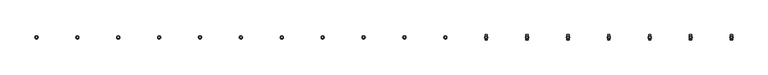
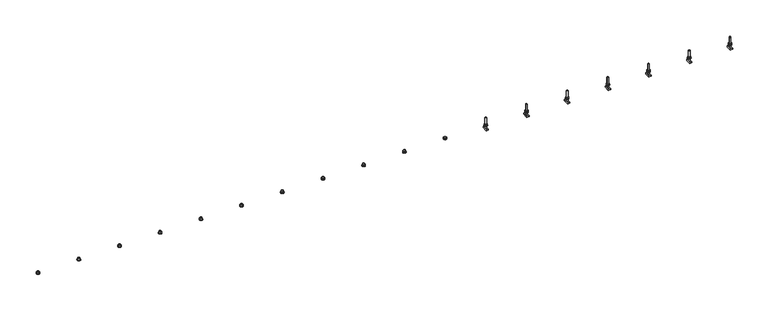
"""IFC4 building model written with IfcOpenShell, lengths in millimetres: fastener geometry, JTA-W JORDAHL® AnchorChannels : JTA-W L=6000 mm."""

from ifc_helpers import new_model, si_unit, point, frame, frame_2d, origin, place, context, project, spatial, polyline, circle_curve, trimmed, segment, composite_curve, outline, extrude, source, transform, mapped, element, save
from ifc_brep_helpers import plane_surface, cylinder_surface, advanced_brep


def fastener_9fe78c77(model_context):
    return source(origin(), model_context, "Body", "SolidModel", [
        extrude(outline(polyline([(5617.1052632, -10.3923048), (5608.1052632, -5.1961524), (5608.1052632, 5.1961524), (5617.1052632, 10.3923048), (5626.1052632, 5.1961524), (5626.1052632, -5.1961524), (5617.1052632, -10.3923048)]), holes=[composite_curve([segment(trimmed(circle_curve(frame_2d((5617.1052632, 0.0)), 6.0), [point((5611.1052632, 0.0))], [point((5623.1052632, 0.0))], True, "CARTESIAN"), True, "CONTINUOUS"), segment(trimmed(circle_curve(frame_2d((5617.1052632, 0.0)), 6.0), [point((5623.1052632, 0.0))], [point((5611.1052632, 0.0))], True, "CARTESIAN"), True, "CONTINUOUS")], self_intersect=False)]), frame((0.0, 0.0, 17.5), z_axis=(0.0, 0.0, 1.0), x_axis=(1.0, 0.0, 0.0)), (0.0, 0.0, 1.0), 10.8),
        extrude(outline(composite_curve([segment(trimmed(circle_curve(frame_2d((5617.1052632, 0.0)), 12.0), [point((5605.1052632, 0.0))], [point((5629.1052632, 0.0))], False, "CARTESIAN"), True, "CONTINUOUS"), segment(trimmed(circle_curve(frame_2d((5617.1052632, 0.0)), 12.0), [point((5629.1052632, 0.0))], [point((5605.1052632, 0.0))], False, "CARTESIAN"), True, "CONTINUOUS")], self_intersect=False), holes=[composite_curve([segment(trimmed(circle_curve(frame_2d((5617.1052632, 0.0)), 6.5), [point((5610.6052632, 0.0))], [point((5623.6052632, 0.0))], True, "CARTESIAN"), True, "CONTINUOUS"), segment(trimmed(circle_curve(frame_2d((5617.1052632, 0.0)), 6.5), [point((5623.6052632, 0.0))], [point((5610.6052632, 0.0))], True, "CARTESIAN"), True, "CONTINUOUS")], self_intersect=False)]), frame((0.0, 0.0, 15.0), z_axis=(0.0, 0.0, 1.0), x_axis=(1.0, 0.0, 0.0)), (0.0, 0.0, 1.0), 2.5),
        extrude(outline(polyline([(5309.2105263, -10.3923048), (5300.2105263, -5.1961524), (5300.2105263, 5.1961524), (5309.2105263, 10.3923048), (5318.2105263, 5.1961524), (5318.2105263, -5.1961524), (5309.2105263, -10.3923048)]), holes=[composite_curve([segment(trimmed(circle_curve(frame_2d((5309.2105263, 0.0)), 6.0), [point((5303.2105263, 0.0))], [point((5315.2105263, 0.0))], True, "CARTESIAN"), True, "CONTINUOUS"), segment(trimmed(circle_curve(frame_2d((5309.2105263, 0.0)), 6.0), [point((5315.2105263, 0.0))], [point((5303.2105263, 0.0))], True, "CARTESIAN"), True, "CONTINUOUS")], self_intersect=False)]), frame((0.0, 0.0, 17.5), z_axis=(0.0, 0.0, 1.0), x_axis=(1.0, 0.0, 0.0)), (0.0, 0.0, 1.0), 10.8),
        extrude(outline(composite_curve([segment(trimmed(circle_curve(frame_2d((5309.2105263, 0.0)), 12.0), [point((5297.2105263, 0.0))], [point((5321.2105263, 0.0))], False, "CARTESIAN"), True, "CONTINUOUS"), segment(trimmed(circle_curve(frame_2d((5309.2105263, 0.0)), 12.0), [point((5321.2105263, 0.0))], [point((5297.2105263, 0.0))], False, "CARTESIAN"), True, "CONTINUOUS")], self_intersect=False), holes=[composite_curve([segment(trimmed(circle_curve(frame_2d((5309.2105263, 0.0)), 6.5), [point((5302.7105263, 0.0))], [point((5315.7105263, 0.0))], True, "CARTESIAN"), True, "CONTINUOUS"), segment(trimmed(circle_curve(frame_2d((5309.2105263, 0.0)), 6.5), [point((5315.7105263, 0.0))], [point((5302.7105263, 0.0))], True, "CARTESIAN"), True, "CONTINUOUS")], self_intersect=False)]), frame((0.0, 0.0, 15.0), z_axis=(0.0, 0.0, 1.0), x_axis=(1.0, 0.0, 0.0)), (0.0, 0.0, 1.0), 2.5),
        extrude(outline(polyline([(5001.3157895, -10.3923048), (4992.3157895, -5.1961524), (4992.3157895, 5.1961524), (5001.3157895, 10.3923048), (5010.3157895, 5.1961524), (5010.3157895, -5.1961524), (5001.3157895, -10.3923048)]), holes=[composite_curve([segment(trimmed(circle_curve(frame_2d((5001.3157895, 0.0)), 6.0), [point((4995.3157895, 0.0))], [point((5007.3157895, 0.0))], True, "CARTESIAN"), True, "CONTINUOUS"), segment(trimmed(circle_curve(frame_2d((5001.3157895, 0.0)), 6.0), [point((5007.3157895, 0.0))], [point((4995.3157895, 0.0))], True, "CARTESIAN"), True, "CONTINUOUS")], self_intersect=False)]), frame((0.0, 0.0, 17.5), z_axis=(0.0, 0.0, 1.0), x_axis=(1.0, 0.0, 0.0)), (0.0, 0.0, 1.0), 10.8),
        extrude(outline(composite_curve([segment(trimmed(circle_curve(frame_2d((5001.3157895, 0.0)), 12.0), [point((4989.3157895, 0.0))], [point((5013.3157895, 0.0))], False, "CARTESIAN"), True, "CONTINUOUS"), segment(trimmed(circle_curve(frame_2d((5001.3157895, 0.0)), 12.0), [point((5013.3157895, 0.0))], [point((4989.3157895, 0.0))], False, "CARTESIAN"), True, "CONTINUOUS")], self_intersect=False), holes=[composite_curve([segment(trimmed(circle_curve(frame_2d((5001.3157895, 0.0)), 6.5), [point((4994.8157895, 0.0))], [point((5007.8157895, 0.0))], True, "CARTESIAN"), True, "CONTINUOUS"), segment(trimmed(circle_curve(frame_2d((5001.3157895, 0.0)), 6.5), [point((5007.8157895, 0.0))], [point((4994.8157895, 0.0))], True, "CARTESIAN"), True, "CONTINUOUS")], self_intersect=False)]), frame((0.0, 0.0, 15.0), z_axis=(0.0, 0.0, 1.0), x_axis=(1.0, 0.0, 0.0)), (0.0, 0.0, 1.0), 2.5),
        extrude(outline(polyline([(4693.4210526, -10.3923048), (4684.4210526, -5.1961524), (4684.4210526, 5.1961524), (4693.4210526, 10.3923048), (4702.4210526, 5.1961524), (4702.4210526, -5.1961524), (4693.4210526, -10.3923048)]), holes=[composite_curve([segment(trimmed(circle_curve(frame_2d((4693.4210526, 0.0)), 6.0), [point((4687.4210526, 0.0))], [point((4699.4210526, 0.0))], True, "CARTESIAN"), True, "CONTINUOUS"), segment(trimmed(circle_curve(frame_2d((4693.4210526, 0.0)), 6.0), [point((4699.4210526, 0.0))], [point((4687.4210526, 0.0))], True, "CARTESIAN"), True, "CONTINUOUS")], self_intersect=False)]), frame((0.0, 0.0, 17.5), z_axis=(0.0, 0.0, 1.0), x_axis=(1.0, 0.0, 0.0)), (0.0, 0.0, 1.0), 10.8),
        extrude(outline(composite_curve([segment(trimmed(circle_curve(frame_2d((4693.4210526, 0.0)), 12.0), [point((4681.4210526, 0.0))], [point((4705.4210526, 0.0))], False, "CARTESIAN"), True, "CONTINUOUS"), segment(trimmed(circle_curve(frame_2d((4693.4210526, 0.0)), 12.0), [point((4705.4210526, 0.0))], [point((4681.4210526, 0.0))], False, "CARTESIAN"), True, "CONTINUOUS")], self_intersect=False), holes=[composite_curve([segment(trimmed(circle_curve(frame_2d((4693.4210526, 0.0)), 6.5), [point((4686.9210526, 0.0))], [point((4699.9210526, 0.0))], True, "CARTESIAN"), True, "CONTINUOUS"), segment(trimmed(circle_curve(frame_2d((4693.4210526, 0.0)), 6.5), [point((4699.9210526, 0.0))], [point((4686.9210526, 0.0))], True, "CARTESIAN"), True, "CONTINUOUS")], self_intersect=False)]), frame((0.0, 0.0, 15.0), z_axis=(0.0, 0.0, 1.0), x_axis=(1.0, 0.0, 0.0)), (0.0, 0.0, 1.0), 2.5),
        extrude(outline(polyline([(4385.5263158, -10.3923048), (4376.5263158, -5.1961524), (4376.5263158, 5.1961524), (4385.5263158, 10.3923048), (4394.5263158, 5.1961524), (4394.5263158, -5.1961524), (4385.5263158, -10.3923048)]), holes=[composite_curve([segment(trimmed(circle_curve(frame_2d((4385.5263158, 0.0)), 6.0), [point((4379.5263158, 0.0))], [point((4391.5263158, 0.0))], True, "CARTESIAN"), True, "CONTINUOUS"), segment(trimmed(circle_curve(frame_2d((4385.5263158, 0.0)), 6.0), [point((4391.5263158, 0.0))], [point((4379.5263158, 0.0))], True, "CARTESIAN"), True, "CONTINUOUS")], self_intersect=False)]), frame((0.0, 0.0, 17.5), z_axis=(0.0, 0.0, 1.0), x_axis=(1.0, 0.0, 0.0)), (0.0, 0.0, 1.0), 10.8),
        extrude(outline(composite_curve([segment(trimmed(circle_curve(frame_2d((4385.5263158, 0.0)), 12.0), [point((4373.5263158, 0.0))], [point((4397.5263158, 0.0))], False, "CARTESIAN"), True, "CONTINUOUS"), segment(trimmed(circle_curve(frame_2d((4385.5263158, 0.0)), 12.0), [point((4397.5263158, 0.0))], [point((4373.5263158, 0.0))], False, "CARTESIAN"), True, "CONTINUOUS")], self_intersect=False), holes=[composite_curve([segment(trimmed(circle_curve(frame_2d((4385.5263158, 0.0)), 6.5), [point((4379.0263158, 0.0))], [point((4392.0263158, 0.0))], True, "CARTESIAN"), True, "CONTINUOUS"), segment(trimmed(circle_curve(frame_2d((4385.5263158, 0.0)), 6.5), [point((4392.0263158, 0.0))], [point((4379.0263158, 0.0))], True, "CARTESIAN"), True, "CONTINUOUS")], self_intersect=False)]), frame((0.0, 0.0, 15.0), z_axis=(0.0, 0.0, 1.0), x_axis=(1.0, 0.0, 0.0)), (0.0, 0.0, 1.0), 2.5),
        extrude(outline(polyline([(4077.6315789, -10.3923048), (4068.6315789, -5.1961524), (4068.6315789, 5.1961524), (4077.6315789, 10.3923048), (4086.6315789, 5.1961524), (4086.6315789, -5.1961524), (4077.6315789, -10.3923048)]), holes=[composite_curve([segment(trimmed(circle_curve(frame_2d((4077.6315789, 0.0)), 6.0), [point((4071.6315789, 0.0))], [point((4083.6315789, 0.0))], True, "CARTESIAN"), True, "CONTINUOUS"), segment(trimmed(circle_curve(frame_2d((4077.6315789, 0.0)), 6.0), [point((4083.6315789, 0.0))], [point((4071.6315789, 0.0))], True, "CARTESIAN"), True, "CONTINUOUS")], self_intersect=False)]), frame((0.0, 0.0, 17.5), z_axis=(0.0, 0.0, 1.0), x_axis=(1.0, 0.0, 0.0)), (0.0, 0.0, 1.0), 10.8),
        extrude(outline(composite_curve([segment(trimmed(circle_curve(frame_2d((4077.6315789, 0.0)), 12.0), [point((4065.6315789, 0.0))], [point((4089.6315789, 0.0))], False, "CARTESIAN"), True, "CONTINUOUS"), segment(trimmed(circle_curve(frame_2d((4077.6315789, 0.0)), 12.0), [point((4089.6315789, 0.0))], [point((4065.6315789, 0.0))], False, "CARTESIAN"), True, "CONTINUOUS")], self_intersect=False), holes=[composite_curve([segment(trimmed(circle_curve(frame_2d((4077.6315789, 0.0)), 6.5), [point((4071.1315789, 0.0))], [point((4084.1315789, 0.0))], True, "CARTESIAN"), True, "CONTINUOUS"), segment(trimmed(circle_curve(frame_2d((4077.6315789, 0.0)), 6.5), [point((4084.1315789, 0.0))], [point((4071.1315789, 0.0))], True, "CARTESIAN"), True, "CONTINUOUS")], self_intersect=False)]), frame((0.0, 0.0, 15.0), z_axis=(0.0, 0.0, 1.0), x_axis=(1.0, 0.0, 0.0)), (0.0, 0.0, 1.0), 2.5),
        extrude(outline(polyline([(3769.7368421, -10.3923048), (3760.7368421, -5.1961524), (3760.7368421, 5.1961524), (3769.7368421, 10.3923048), (3778.7368421, 5.1961524), (3778.7368421, -5.1961524), (3769.7368421, -10.3923048)]), holes=[composite_curve([segment(trimmed(circle_curve(frame_2d((3769.7368421, 0.0)), 6.0), [point((3763.7368421, 0.0))], [point((3775.7368421, 0.0))], True, "CARTESIAN"), True, "CONTINUOUS"), segment(trimmed(circle_curve(frame_2d((3769.7368421, 0.0)), 6.0), [point((3775.7368421, 0.0))], [point((3763.7368421, 0.0))], True, "CARTESIAN"), True, "CONTINUOUS")], self_intersect=False)]), frame((0.0, 0.0, 17.5), z_axis=(0.0, 0.0, 1.0), x_axis=(1.0, 0.0, 0.0)), (0.0, 0.0, 1.0), 10.8),
        extrude(outline(composite_curve([segment(trimmed(circle_curve(frame_2d((3769.7368421, 0.0)), 12.0), [point((3757.7368421, 0.0))], [point((3781.7368421, 0.0))], False, "CARTESIAN"), True, "CONTINUOUS"), segment(trimmed(circle_curve(frame_2d((3769.7368421, 0.0)), 12.0), [point((3781.7368421, 0.0))], [point((3757.7368421, 0.0))], False, "CARTESIAN"), True, "CONTINUOUS")], self_intersect=False), holes=[composite_curve([segment(trimmed(circle_curve(frame_2d((3769.7368421, 0.0)), 6.5), [point((3763.2368421, 0.0))], [point((3776.2368421, 0.0))], True, "CARTESIAN"), True, "CONTINUOUS"), segment(trimmed(circle_curve(frame_2d((3769.7368421, 0.0)), 6.5), [point((3776.2368421, 0.0))], [point((3763.2368421, 0.0))], True, "CARTESIAN"), True, "CONTINUOUS")], self_intersect=False)]), frame((0.0, 0.0, 15.0), z_axis=(0.0, 0.0, 1.0), x_axis=(1.0, 0.0, 0.0)), (0.0, 0.0, 1.0), 2.5),
        extrude(outline(polyline([(3461.8421053, -10.3923048), (3452.8421053, -5.1961524), (3452.8421053, 5.1961524), (3461.8421053, 10.3923048), (3470.8421053, 5.1961524), (3470.8421053, -5.1961524), (3461.8421053, -10.3923048)]), holes=[composite_curve([segment(trimmed(circle_curve(frame_2d((3461.8421053, 0.0)), 6.0), [point((3455.8421053, 0.0))], [point((3467.8421053, 0.0))], True, "CARTESIAN"), True, "CONTINUOUS"), segment(trimmed(circle_curve(frame_2d((3461.8421053, 0.0)), 6.0), [point((3467.8421053, 0.0))], [point((3455.8421053, 0.0))], True, "CARTESIAN"), True, "CONTINUOUS")], self_intersect=False)]), frame((0.0, 0.0, 17.5), z_axis=(0.0, 0.0, 1.0), x_axis=(1.0, 0.0, 0.0)), (0.0, 0.0, 1.0), 10.8),
        extrude(outline(composite_curve([segment(trimmed(circle_curve(frame_2d((3461.8421053, 0.0)), 12.0), [point((3449.8421053, 0.0))], [point((3473.8421053, 0.0))], False, "CARTESIAN"), True, "CONTINUOUS"), segment(trimmed(circle_curve(frame_2d((3461.8421053, 0.0)), 12.0), [point((3473.8421053, 0.0))], [point((3449.8421053, 0.0))], False, "CARTESIAN"), True, "CONTINUOUS")], self_intersect=False), holes=[composite_curve([segment(trimmed(circle_curve(frame_2d((3461.8421053, 0.0)), 6.5), [point((3455.3421053, 0.0))], [point((3468.3421053, 0.0))], True, "CARTESIAN"), True, "CONTINUOUS"), segment(trimmed(circle_curve(frame_2d((3461.8421053, 0.0)), 6.5), [point((3468.3421053, 0.0))], [point((3455.3421053, 0.0))], True, "CARTESIAN"), True, "CONTINUOUS")], self_intersect=False)]), frame((0.0, 0.0, 15.0), z_axis=(0.0, 0.0, 1.0), x_axis=(1.0, 0.0, 0.0)), (0.0, 0.0, 1.0), 2.5),
        extrude(outline(polyline([(3153.9473684, -10.3923048), (3144.9473684, -5.1961524), (3144.9473684, 5.1961524), (3153.9473684, 10.3923048), (3162.9473684, 5.1961524), (3162.9473684, -5.1961524), (3153.9473684, -10.3923048)]), holes=[composite_curve([segment(trimmed(circle_curve(frame_2d((3153.9473684, 0.0)), 6.0), [point((3147.9473684, 0.0))], [point((3159.9473684, 0.0))], True, "CARTESIAN"), True, "CONTINUOUS"), segment(trimmed(circle_curve(frame_2d((3153.9473684, 0.0)), 6.0), [point((3159.9473684, 0.0))], [point((3147.9473684, 0.0))], True, "CARTESIAN"), True, "CONTINUOUS")], self_intersect=False)]), frame((0.0, 0.0, 17.5), z_axis=(0.0, 0.0, 1.0), x_axis=(1.0, 0.0, 0.0)), (0.0, 0.0, 1.0), 10.8),
        extrude(outline(composite_curve([segment(trimmed(circle_curve(frame_2d((3153.9473684, 0.0)), 12.0), [point((3141.9473684, 0.0))], [point((3165.9473684, 0.0))], False, "CARTESIAN"), True, "CONTINUOUS"), segment(trimmed(circle_curve(frame_2d((3153.9473684, 0.0)), 12.0), [point((3165.9473684, 0.0))], [point((3141.9473684, 0.0))], False, "CARTESIAN"), True, "CONTINUOUS")], self_intersect=False), holes=[composite_curve([segment(trimmed(circle_curve(frame_2d((3153.9473684, 0.0)), 6.5), [point((3147.4473684, 0.0))], [point((3160.4473684, 0.0))], True, "CARTESIAN"), True, "CONTINUOUS"), segment(trimmed(circle_curve(frame_2d((3153.9473684, 0.0)), 6.5), [point((3160.4473684, 0.0))], [point((3147.4473684, 0.0))], True, "CARTESIAN"), True, "CONTINUOUS")], self_intersect=False)]), frame((0.0, 0.0, 15.0), z_axis=(0.0, 0.0, 1.0), x_axis=(1.0, 0.0, 0.0)), (0.0, 0.0, 1.0), 2.5),
        extrude(outline(polyline([(2846.0526316, -10.3923048), (2837.0526316, -5.1961524), (2837.0526316, 5.1961524), (2846.0526316, 10.3923048), (2855.0526316, 5.1961524), (2855.0526316, -5.1961524), (2846.0526316, -10.3923048)]), holes=[composite_curve([segment(trimmed(circle_curve(frame_2d((2846.0526316, 0.0)), 6.0), [point((2840.0526316, 0.0))], [point((2852.0526316, 0.0))], True, "CARTESIAN"), True, "CONTINUOUS"), segment(trimmed(circle_curve(frame_2d((2846.0526316, 0.0)), 6.0), [point((2852.0526316, 0.0))], [point((2840.0526316, 0.0))], True, "CARTESIAN"), True, "CONTINUOUS")], self_intersect=False)]), frame((0.0, 0.0, 17.5), z_axis=(0.0, 0.0, 1.0), x_axis=(1.0, 0.0, 0.0)), (0.0, 0.0, 1.0), 10.8),
        extrude(outline(composite_curve([segment(trimmed(circle_curve(frame_2d((2846.0526316, 0.0)), 12.0), [point((2834.0526316, 0.0))], [point((2858.0526316, 0.0))], False, "CARTESIAN"), True, "CONTINUOUS"), segment(trimmed(circle_curve(frame_2d((2846.0526316, 0.0)), 12.0), [point((2858.0526316, 0.0))], [point((2834.0526316, 0.0))], False, "CARTESIAN"), True, "CONTINUOUS")], self_intersect=False), holes=[composite_curve([segment(trimmed(circle_curve(frame_2d((2846.0526316, 0.0)), 6.5), [point((2839.5526316, 0.0))], [point((2852.5526316, 0.0))], True, "CARTESIAN"), True, "CONTINUOUS"), segment(trimmed(circle_curve(frame_2d((2846.0526316, 0.0)), 6.5), [point((2852.5526316, 0.0))], [point((2839.5526316, 0.0))], True, "CARTESIAN"), True, "CONTINUOUS")], self_intersect=False)]), frame((0.0, 0.0, 15.0), z_axis=(0.0, 0.0, 1.0), x_axis=(1.0, 0.0, 0.0)), (0.0, 0.0, 1.0), 2.5),
        extrude(outline(polyline([(2538.1578947, -10.3923048), (2529.1578947, -5.1961524), (2529.1578947, 5.1961524), (2538.1578947, 10.3923048), (2547.1578947, 5.1961524), (2547.1578947, -5.1961524), (2538.1578947, -10.3923048)]), holes=[composite_curve([segment(trimmed(circle_curve(frame_2d((2538.1578947, 0.0)), 6.0), [point((2532.1578947, 0.0))], [point((2544.1578947, 0.0))], True, "CARTESIAN"), True, "CONTINUOUS"), segment(trimmed(circle_curve(frame_2d((2538.1578947, 0.0)), 6.0), [point((2544.1578947, 0.0))], [point((2532.1578947, 0.0))], True, "CARTESIAN"), True, "CONTINUOUS")], self_intersect=False)]), frame((0.0, 0.0, 17.5), z_axis=(0.0, 0.0, 1.0), x_axis=(1.0, 0.0, 0.0)), (0.0, 0.0, 1.0), 10.8),
        extrude(outline(composite_curve([segment(trimmed(circle_curve(frame_2d((2538.1578947, 0.0)), 12.0), [point((2526.1578947, 0.0))], [point((2550.1578947, 0.0))], False, "CARTESIAN"), True, "CONTINUOUS"), segment(trimmed(circle_curve(frame_2d((2538.1578947, 0.0)), 12.0), [point((2550.1578947, 0.0))], [point((2526.1578947, 0.0))], False, "CARTESIAN"), True, "CONTINUOUS")], self_intersect=False), holes=[composite_curve([segment(trimmed(circle_curve(frame_2d((2538.1578947, 0.0)), 6.5), [point((2531.6578947, 0.0))], [point((2544.6578947, 0.0))], True, "CARTESIAN"), True, "CONTINUOUS"), segment(trimmed(circle_curve(frame_2d((2538.1578947, 0.0)), 6.5), [point((2544.6578947, 0.0))], [point((2531.6578947, 0.0))], True, "CARTESIAN"), True, "CONTINUOUS")], self_intersect=False)]), frame((0.0, 0.0, 15.0), z_axis=(0.0, 0.0, 1.0), x_axis=(1.0, 0.0, 0.0)), (0.0, 0.0, 1.0), 2.5),
        extrude(outline(polyline([(2230.2631579, -10.3923048), (2221.2631579, -5.1961524), (2221.2631579, 5.1961524), (2230.2631579, 10.3923048), (2239.2631579, 5.1961524), (2239.2631579, -5.1961524), (2230.2631579, -10.3923048)]), holes=[composite_curve([segment(trimmed(circle_curve(frame_2d((2230.2631579, 0.0)), 6.0), [point((2224.2631579, 0.0))], [point((2236.2631579, 0.0))], True, "CARTESIAN"), True, "CONTINUOUS"), segment(trimmed(circle_curve(frame_2d((2230.2631579, 0.0)), 6.0), [point((2236.2631579, 0.0))], [point((2224.2631579, 0.0))], True, "CARTESIAN"), True, "CONTINUOUS")], self_intersect=False)]), frame((0.0, 0.0, 17.5), z_axis=(0.0, 0.0, 1.0), x_axis=(1.0, 0.0, 0.0)), (0.0, 0.0, 1.0), 10.8),
        extrude(outline(composite_curve([segment(trimmed(circle_curve(frame_2d((2230.2631579, 0.0)), 12.0), [point((2218.2631579, 0.0))], [point((2242.2631579, 0.0))], False, "CARTESIAN"), True, "CONTINUOUS"), segment(trimmed(circle_curve(frame_2d((2230.2631579, 0.0)), 12.0), [point((2242.2631579, 0.0))], [point((2218.2631579, 0.0))], False, "CARTESIAN"), True, "CONTINUOUS")], self_intersect=False), holes=[composite_curve([segment(trimmed(circle_curve(frame_2d((2230.2631579, 0.0)), 6.5), [point((2223.7631579, 0.0))], [point((2236.7631579, 0.0))], True, "CARTESIAN"), True, "CONTINUOUS"), segment(trimmed(circle_curve(frame_2d((2230.2631579, 0.0)), 6.5), [point((2236.7631579, 0.0))], [point((2223.7631579, 0.0))], True, "CARTESIAN"), True, "CONTINUOUS")], self_intersect=False)]), frame((0.0, 0.0, 15.0), z_axis=(0.0, 0.0, 1.0), x_axis=(1.0, 0.0, 0.0)), (0.0, 0.0, 1.0), 2.5),
        extrude(outline(polyline([(1922.3684211, -10.3923048), (1913.3684211, -5.1961524), (1913.3684211, 5.1961524), (1922.3684211, 10.3923048), (1931.3684211, 5.1961524), (1931.3684211, -5.1961524), (1922.3684211, -10.3923048)]), holes=[composite_curve([segment(trimmed(circle_curve(frame_2d((1922.3684211, 0.0)), 6.0), [point((1916.3684211, 0.0))], [point((1928.3684211, 0.0))], True, "CARTESIAN"), True, "CONTINUOUS"), segment(trimmed(circle_curve(frame_2d((1922.3684211, 0.0)), 6.0), [point((1928.3684211, 0.0))], [point((1916.3684211, 0.0))], True, "CARTESIAN"), True, "CONTINUOUS")], self_intersect=False)]), frame((0.0, 0.0, 17.5), z_axis=(0.0, 0.0, 1.0), x_axis=(1.0, 0.0, 0.0)), (0.0, 0.0, 1.0), 10.8),
        extrude(outline(composite_curve([segment(trimmed(circle_curve(frame_2d((1922.3684211, 0.0)), 12.0), [point((1910.3684211, 0.0))], [point((1934.3684211, 0.0))], False, "CARTESIAN"), True, "CONTINUOUS"), segment(trimmed(circle_curve(frame_2d((1922.3684211, 0.0)), 12.0), [point((1934.3684211, 0.0))], [point((1910.3684211, 0.0))], False, "CARTESIAN"), True, "CONTINUOUS")], self_intersect=False), holes=[composite_curve([segment(trimmed(circle_curve(frame_2d((1922.3684211, 0.0)), 6.5), [point((1915.8684211, 0.0))], [point((1928.8684211, 0.0))], True, "CARTESIAN"), True, "CONTINUOUS"), segment(trimmed(circle_curve(frame_2d((1922.3684211, 0.0)), 6.5), [point((1928.8684211, 0.0))], [point((1915.8684211, 0.0))], True, "CARTESIAN"), True, "CONTINUOUS")], self_intersect=False)]), frame((0.0, 0.0, 15.0), z_axis=(0.0, 0.0, 1.0), x_axis=(1.0, 0.0, 0.0)), (0.0, 0.0, 1.0), 2.5),
        extrude(outline(polyline([(1614.4736842, -10.3923048), (1605.4736842, -5.1961524), (1605.4736842, 5.1961524), (1614.4736842, 10.3923048), (1623.4736842, 5.1961524), (1623.4736842, -5.1961524), (1614.4736842, -10.3923048)]), holes=[composite_curve([segment(trimmed(circle_curve(frame_2d((1614.4736842, 0.0)), 6.0), [point((1608.4736842, 0.0))], [point((1620.4736842, 0.0))], True, "CARTESIAN"), True, "CONTINUOUS"), segment(trimmed(circle_curve(frame_2d((1614.4736842, 0.0)), 6.0), [point((1620.4736842, 0.0))], [point((1608.4736842, 0.0))], True, "CARTESIAN"), True, "CONTINUOUS")], self_intersect=False)]), frame((0.0, 0.0, 17.5), z_axis=(0.0, 0.0, 1.0), x_axis=(1.0, 0.0, 0.0)), (0.0, 0.0, 1.0), 10.8),
        extrude(outline(composite_curve([segment(trimmed(circle_curve(frame_2d((1614.4736842, 0.0)), 12.0), [point((1602.4736842, 0.0))], [point((1626.4736842, 0.0))], False, "CARTESIAN"), True, "CONTINUOUS"), segment(trimmed(circle_curve(frame_2d((1614.4736842, 0.0)), 12.0), [point((1626.4736842, 0.0))], [point((1602.4736842, 0.0))], False, "CARTESIAN"), True, "CONTINUOUS")], self_intersect=False), holes=[composite_curve([segment(trimmed(circle_curve(frame_2d((1614.4736842, 0.0)), 6.5), [point((1607.9736842, 0.0))], [point((1620.9736842, 0.0))], True, "CARTESIAN"), True, "CONTINUOUS"), segment(trimmed(circle_curve(frame_2d((1614.4736842, 0.0)), 6.5), [point((1620.9736842, 0.0))], [point((1607.9736842, 0.0))], True, "CARTESIAN"), True, "CONTINUOUS")], self_intersect=False)]), frame((0.0, 0.0, 15.0), z_axis=(0.0, 0.0, 1.0), x_axis=(1.0, 0.0, 0.0)), (0.0, 0.0, 1.0), 2.5),
        extrude(outline(polyline([(1306.5789474, -10.3923048), (1297.5789474, -5.1961524), (1297.5789474, 5.1961524), (1306.5789474, 10.3923048), (1315.5789474, 5.1961524), (1315.5789474, -5.1961524), (1306.5789474, -10.3923048)]), holes=[composite_curve([segment(trimmed(circle_curve(frame_2d((1306.5789474, 0.0)), 6.0), [point((1300.5789474, 0.0))], [point((1312.5789474, 0.0))], True, "CARTESIAN"), True, "CONTINUOUS"), segment(trimmed(circle_curve(frame_2d((1306.5789474, 0.0)), 6.0), [point((1312.5789474, 0.0))], [point((1300.5789474, 0.0))], True, "CARTESIAN"), True, "CONTINUOUS")], self_intersect=False)]), frame((0.0, 0.0, 17.5), z_axis=(0.0, 0.0, 1.0), x_axis=(1.0, 0.0, 0.0)), (0.0, 0.0, 1.0), 10.8),
        extrude(outline(composite_curve([segment(trimmed(circle_curve(frame_2d((1306.5789474, 0.0)), 12.0), [point((1294.5789474, 0.0))], [point((1318.5789474, 0.0))], False, "CARTESIAN"), True, "CONTINUOUS"), segment(trimmed(circle_curve(frame_2d((1306.5789474, 0.0)), 12.0), [point((1318.5789474, 0.0))], [point((1294.5789474, 0.0))], False, "CARTESIAN"), True, "CONTINUOUS")], self_intersect=False), holes=[composite_curve([segment(trimmed(circle_curve(frame_2d((1306.5789474, 0.0)), 6.5), [point((1300.0789474, 0.0))], [point((1313.0789474, 0.0))], True, "CARTESIAN"), True, "CONTINUOUS"), segment(trimmed(circle_curve(frame_2d((1306.5789474, 0.0)), 6.5), [point((1313.0789474, 0.0))], [point((1300.0789474, 0.0))], True, "CARTESIAN"), True, "CONTINUOUS")], self_intersect=False)]), frame((0.0, 0.0, 15.0), z_axis=(0.0, 0.0, 1.0), x_axis=(1.0, 0.0, 0.0)), (0.0, 0.0, 1.0), 2.5),
        extrude(outline(polyline([(998.6842105, -10.3923048), (989.6842105, -5.1961524), (989.6842105, 5.1961524), (998.6842105, 10.3923048), (1007.6842105, 5.1961524), (1007.6842105, -5.1961524), (998.6842105, -10.3923048)]), holes=[composite_curve([segment(trimmed(circle_curve(frame_2d((998.6842105, 0.0)), 6.0), [point((992.6842105, 0.0))], [point((1004.6842105, 0.0))], True, "CARTESIAN"), True, "CONTINUOUS"), segment(trimmed(circle_curve(frame_2d((998.6842105, 0.0)), 6.0), [point((1004.6842105, 0.0))], [point((992.6842105, 0.0))], True, "CARTESIAN"), True, "CONTINUOUS")], self_intersect=False)]), frame((0.0, 0.0, 17.5), z_axis=(0.0, 0.0, 1.0), x_axis=(1.0, 0.0, 0.0)), (0.0, 0.0, 1.0), 10.8),
        extrude(outline(composite_curve([segment(trimmed(circle_curve(frame_2d((998.6842105, 0.0)), 12.0), [point((986.6842105, 0.0))], [point((1010.6842105, 0.0))], False, "CARTESIAN"), True, "CONTINUOUS"), segment(trimmed(circle_curve(frame_2d((998.6842105, 0.0)), 12.0), [point((1010.6842105, 0.0))], [point((986.6842105, 0.0))], False, "CARTESIAN"), True, "CONTINUOUS")], self_intersect=False), holes=[composite_curve([segment(trimmed(circle_curve(frame_2d((998.6842105, 0.0)), 6.5), [point((992.1842105, 0.0))], [point((1005.1842105, 0.0))], True, "CARTESIAN"), True, "CONTINUOUS"), segment(trimmed(circle_curve(frame_2d((998.6842105, 0.0)), 6.5), [point((1005.1842105, 0.0))], [point((992.1842105, 0.0))], True, "CARTESIAN"), True, "CONTINUOUS")], self_intersect=False)]), frame((0.0, 0.0, 15.0), z_axis=(0.0, 0.0, 1.0), x_axis=(1.0, 0.0, 0.0)), (0.0, 0.0, 1.0), 2.5),
        extrude(outline(polyline([(690.7894737, -10.3923048), (681.7894737, -5.1961524), (681.7894737, 5.1961524), (690.7894737, 10.3923048), (699.7894737, 5.1961524), (699.7894737, -5.1961524), (690.7894737, -10.3923048)]), holes=[composite_curve([segment(trimmed(circle_curve(frame_2d((690.7894737, 0.0)), 6.0), [point((684.7894737, 0.0))], [point((696.7894737, 0.0))], True, "CARTESIAN"), True, "CONTINUOUS"), segment(trimmed(circle_curve(frame_2d((690.7894737, 0.0)), 6.0), [point((696.7894737, 0.0))], [point((684.7894737, 0.0))], True, "CARTESIAN"), True, "CONTINUOUS")], self_intersect=False)]), frame((0.0, 0.0, 17.5), z_axis=(0.0, 0.0, 1.0), x_axis=(1.0, 0.0, 0.0)), (0.0, 0.0, 1.0), 10.8),
        extrude(outline(composite_curve([segment(trimmed(circle_curve(frame_2d((690.7894737, 0.0)), 12.0), [point((678.7894737, 0.0))], [point((702.7894737, 0.0))], False, "CARTESIAN"), True, "CONTINUOUS"), segment(trimmed(circle_curve(frame_2d((690.7894737, 0.0)), 12.0), [point((702.7894737, 0.0))], [point((678.7894737, 0.0))], False, "CARTESIAN"), True, "CONTINUOUS")], self_intersect=False), holes=[composite_curve([segment(trimmed(circle_curve(frame_2d((690.7894737, 0.0)), 6.5), [point((684.2894737, 0.0))], [point((697.2894737, 0.0))], True, "CARTESIAN"), True, "CONTINUOUS"), segment(trimmed(circle_curve(frame_2d((690.7894737, 0.0)), 6.5), [point((697.2894737, 0.0))], [point((684.2894737, 0.0))], True, "CARTESIAN"), True, "CONTINUOUS")], self_intersect=False)]), frame((0.0, 0.0, 15.0), z_axis=(0.0, 0.0, 1.0), x_axis=(1.0, 0.0, 0.0)), (0.0, 0.0, 1.0), 2.5),
        extrude(outline(polyline([(382.8947368, -10.3923048), (373.8947368, -5.1961524), (373.8947368, 5.1961524), (382.8947368, 10.3923048), (391.8947368, 5.1961524), (391.8947368, -5.1961524), (382.8947368, -10.3923048)]), holes=[composite_curve([segment(trimmed(circle_curve(frame_2d((382.8947368, 0.0)), 6.0), [point((376.8947368, 0.0))], [point((388.8947368, 0.0))], True, "CARTESIAN"), True, "CONTINUOUS"), segment(trimmed(circle_curve(frame_2d((382.8947368, 0.0)), 6.0), [point((388.8947368, 0.0))], [point((376.8947368, 0.0))], True, "CARTESIAN"), True, "CONTINUOUS")], self_intersect=False)]), frame((0.0, 0.0, 17.5), z_axis=(0.0, 0.0, 1.0), x_axis=(1.0, 0.0, 0.0)), (0.0, 0.0, 1.0), 10.8),
        extrude(outline(composite_curve([segment(trimmed(circle_curve(frame_2d((382.8947368, 0.0)), 12.0), [point((370.8947368, 0.0))], [point((394.8947368, 0.0))], False, "CARTESIAN"), True, "CONTINUOUS"), segment(trimmed(circle_curve(frame_2d((382.8947368, 0.0)), 12.0), [point((394.8947368, 0.0))], [point((370.8947368, 0.0))], False, "CARTESIAN"), True, "CONTINUOUS")], self_intersect=False), holes=[composite_curve([segment(trimmed(circle_curve(frame_2d((382.8947368, 0.0)), 6.5), [point((376.3947368, 0.0))], [point((389.3947368, 0.0))], True, "CARTESIAN"), True, "CONTINUOUS"), segment(trimmed(circle_curve(frame_2d((382.8947368, 0.0)), 6.5), [point((389.3947368, 0.0))], [point((376.3947368, 0.0))], True, "CARTESIAN"), True, "CONTINUOUS")], self_intersect=False)]), frame((0.0, 0.0, 15.0), z_axis=(0.0, 0.0, 1.0), x_axis=(1.0, 0.0, 0.0)), (0.0, 0.0, 1.0), 2.5),
        advanced_brep(
        [(5625.6052632, -20.7, -4.0), (5625.6052632, -20.7, -14.0), (5625.6052632, 20.7, -14.0), (5625.6052632, 20.7, -4.0), (5608.6052632, -20.7, -4.0), (5608.6052632, 20.7, -4.0), (5608.6052632, 20.7, -14.0), (5608.6052632, -20.7, -14.0), (5623.1052632, 0.0, -4.0), (5611.1052632, 0.0, -4.0), (5611.1052632, 0.0, 76.0), (5623.1052632, 0.0, 76.0)],
        [
            (0, 1),
            (1, 2),
            (2, 3),
            (3, 0),
            (4, 5),
            (5, 6),
            (6, 7),
            (7, 4),
            (3, 5),
            (4, 0),
            (8, 9, circle_curve(frame((5617.1052632, 0.0, -4.0), z_axis=(0.0, 0.0, -1.0), x_axis=(1.0, 0.0, 0.0)), 6.0)),
            (9, 8, circle_curve(frame((5617.1052632, 0.0, -4.0), z_axis=(0.0, 0.0, -1.0), x_axis=(1.0, 0.0, 0.0)), 6.0)),
            (2, 6),
            (1, 7),
            (10, 11, circle_curve(frame((5617.1052632, 0.0, 76.0), z_axis=(0.0, 0.0, 1.0), x_axis=(1.0, 0.0, 0.0)), 6.0)),
            (11, 10, circle_curve(frame((5617.1052632, 0.0, 76.0), z_axis=(0.0, 0.0, 1.0), x_axis=(1.0, 0.0, 0.0)), 6.0)),
            (11, 8),
            (9, 10),
        ],
        [
            plane_surface(frame((5625.6052632, 20.7, -4.0), z_axis=(1.0, 0.0, 0.0), x_axis=(0.0, 1.0, 0.0))),
            plane_surface(frame((5608.6052632, 20.7, -4.0), z_axis=(-1.0, 0.0, 0.0), x_axis=(0.0, -1.0, 0.0))),
            plane_surface(frame((5625.6052632, -20.7, -4.0), z_axis=(0.0, 0.0, 1.0), x_axis=(-1.0, 0.0, 0.0))),
            plane_surface(frame((5625.6052632, 20.7, -4.0), z_axis=(0.0, 1.0, 0.0), x_axis=(-1.0, 0.0, 0.0))),
            plane_surface(frame((5625.6052632, 20.7, -14.0), z_axis=(0.0, 0.0, -1.0), x_axis=(-1.0, 0.0, 0.0))),
            plane_surface(frame((5625.6052632, -20.7, -14.0), z_axis=(0.0, -1.0, 0.0), x_axis=(-1.0, 0.0, 0.0))),
            plane_surface(frame((5623.1052632, 0.0, 76.0), z_axis=(0.0, 0.0, 1.0), x_axis=(0.0, -1.0, 0.0))),
            cylinder_surface(frame((5617.1052632, 0.0, -4.0), z_axis=(0.0, 0.0, 1.0), x_axis=(1.0, 0.0, 0.0)), 6.0),
        ],
        [
            (0, [[1, 2, 3, 4]]),
            (1, [[5, 6, 7, 8]]),
            (2, [[9, -5, 10, -4], [11, 12]]),
            (3, [[13, -6, -9, -3]]),
            (4, [[14, -7, -13, -2]]),
            (5, [[-10, -8, -14, -1]]),
            (6, [[15, 16]]),
            (7, [[17, -12, 18, -16]]),
            (7, [[-18, -11, -17, -15]]),
        ],
    ),
        advanced_brep(
        [(5317.7105263, -20.7, -4.0), (5317.7105263, -20.7, -14.0), (5317.7105263, 20.7, -14.0), (5317.7105263, 20.7, -4.0), (5300.7105263, -20.7, -4.0), (5300.7105263, 20.7, -4.0), (5300.7105263, 20.7, -14.0), (5300.7105263, -20.7, -14.0), (5315.2105263, 0.0, -4.0), (5303.2105263, 0.0, -4.0), (5303.2105263, 0.0, 76.0), (5315.2105263, 0.0, 76.0)],
        [
            (0, 1),
            (1, 2),
            (2, 3),
            (3, 0),
            (4, 5),
            (5, 6),
            (6, 7),
            (7, 4),
            (3, 5),
            (4, 0),
            (8, 9, circle_curve(frame((5309.2105263, 0.0, -4.0), z_axis=(0.0, 0.0, -1.0), x_axis=(1.0, 0.0, 0.0)), 6.0)),
            (9, 8, circle_curve(frame((5309.2105263, 0.0, -4.0), z_axis=(0.0, 0.0, -1.0), x_axis=(1.0, 0.0, 0.0)), 6.0)),
            (2, 6),
            (1, 7),
            (10, 11, circle_curve(frame((5309.2105263, 0.0, 76.0), z_axis=(0.0, 0.0, 1.0), x_axis=(1.0, 0.0, 0.0)), 6.0)),
            (11, 10, circle_curve(frame((5309.2105263, 0.0, 76.0), z_axis=(0.0, 0.0, 1.0), x_axis=(1.0, 0.0, 0.0)), 6.0)),
            (11, 8),
            (9, 10),
        ],
        [
            plane_surface(frame((5317.7105263, 20.7, -4.0), z_axis=(1.0, 0.0, 0.0), x_axis=(0.0, 1.0, 0.0))),
            plane_surface(frame((5300.7105263, 20.7, -4.0), z_axis=(-1.0, 0.0, 0.0), x_axis=(0.0, -1.0, 0.0))),
            plane_surface(frame((5317.7105263, -20.7, -4.0), z_axis=(0.0, 0.0, 1.0), x_axis=(-1.0, 0.0, 0.0))),
            plane_surface(frame((5317.7105263, 20.7, -4.0), z_axis=(0.0, 1.0, 0.0), x_axis=(-1.0, 0.0, 0.0))),
            plane_surface(frame((5317.7105263, 20.7, -14.0), z_axis=(0.0, 0.0, -1.0), x_axis=(-1.0, 0.0, 0.0))),
            plane_surface(frame((5317.7105263, -20.7, -14.0), z_axis=(0.0, -1.0, 0.0), x_axis=(-1.0, 0.0, 0.0))),
            plane_surface(frame((5315.2105263, 0.0, 76.0), z_axis=(0.0, 0.0, 1.0), x_axis=(0.0, -1.0, 0.0))),
            cylinder_surface(frame((5309.2105263, 0.0, -4.0), z_axis=(0.0, 0.0, 1.0), x_axis=(1.0, 0.0, 0.0)), 6.0),
        ],
        [
            (0, [[1, 2, 3, 4]]),
            (1, [[5, 6, 7, 8]]),
            (2, [[9, -5, 10, -4], [11, 12]]),
            (3, [[13, -6, -9, -3]]),
            (4, [[14, -7, -13, -2]]),
            (5, [[-10, -8, -14, -1]]),
            (6, [[15, 16]]),
            (7, [[17, -12, 18, -16]]),
            (7, [[-18, -11, -17, -15]]),
        ],
    ),
        advanced_brep(
        [(5009.8157895, -20.7, -4.0), (5009.8157895, -20.7, -14.0), (5009.8157895, 20.7, -14.0), (5009.8157895, 20.7, -4.0), (4992.8157895, -20.7, -4.0), (4992.8157895, 20.7, -4.0), (4992.8157895, 20.7, -14.0), (4992.8157895, -20.7, -14.0), (5007.3157895, 0.0, -4.0), (4995.3157895, 0.0, -4.0), (4995.3157895, 0.0, 76.0), (5007.3157895, 0.0, 76.0)],
        [
            (0, 1),
            (1, 2),
            (2, 3),
            (3, 0),
            (4, 5),
            (5, 6),
            (6, 7),
            (7, 4),
            (3, 5),
            (4, 0),
            (8, 9, circle_curve(frame((5001.3157895, 0.0, -4.0), z_axis=(0.0, 0.0, -1.0), x_axis=(1.0, 0.0, 0.0)), 6.0)),
            (9, 8, circle_curve(frame((5001.3157895, 0.0, -4.0), z_axis=(0.0, 0.0, -1.0), x_axis=(1.0, 0.0, 0.0)), 6.0)),
            (2, 6),
            (1, 7),
            (10, 11, circle_curve(frame((5001.3157895, 0.0, 76.0), z_axis=(0.0, 0.0, 1.0), x_axis=(1.0, 0.0, 0.0)), 6.0)),
            (11, 10, circle_curve(frame((5001.3157895, 0.0, 76.0), z_axis=(0.0, 0.0, 1.0), x_axis=(1.0, 0.0, 0.0)), 6.0)),
            (11, 8),
            (9, 10),
        ],
        [
            plane_surface(frame((5009.8157895, 20.7, -4.0), z_axis=(1.0, 0.0, 0.0), x_axis=(0.0, 1.0, 0.0))),
            plane_surface(frame((4992.8157895, 20.7, -4.0), z_axis=(-1.0, 0.0, 0.0), x_axis=(0.0, -1.0, 0.0))),
            plane_surface(frame((5009.8157895, -20.7, -4.0), z_axis=(0.0, 0.0, 1.0), x_axis=(-1.0, 0.0, 0.0))),
            plane_surface(frame((5009.8157895, 20.7, -4.0), z_axis=(0.0, 1.0, 0.0), x_axis=(-1.0, 0.0, 0.0))),
            plane_surface(frame((5009.8157895, 20.7, -14.0), z_axis=(0.0, 0.0, -1.0), x_axis=(-1.0, 0.0, 0.0))),
            plane_surface(frame((5009.8157895, -20.7, -14.0), z_axis=(0.0, -1.0, 0.0), x_axis=(-1.0, 0.0, 0.0))),
            plane_surface(frame((5007.3157895, 0.0, 76.0), z_axis=(0.0, 0.0, 1.0), x_axis=(0.0, -1.0, 0.0))),
            cylinder_surface(frame((5001.3157895, 0.0, -4.0), z_axis=(0.0, 0.0, 1.0), x_axis=(1.0, 0.0, 0.0)), 6.0),
        ],
        [
            (0, [[1, 2, 3, 4]]),
            (1, [[5, 6, 7, 8]]),
            (2, [[9, -5, 10, -4], [11, 12]]),
            (3, [[13, -6, -9, -3]]),
            (4, [[14, -7, -13, -2]]),
            (5, [[-10, -8, -14, -1]]),
            (6, [[15, 16]]),
            (7, [[17, -12, 18, -16]]),
            (7, [[-18, -11, -17, -15]]),
        ],
    ),
        advanced_brep(
        [(4701.9210526, -20.7, -4.0), (4701.9210526, -20.7, -14.0), (4701.9210526, 20.7, -14.0), (4701.9210526, 20.7, -4.0), (4684.9210526, -20.7, -4.0), (4684.9210526, 20.7, -4.0), (4684.9210526, 20.7, -14.0), (4684.9210526, -20.7, -14.0), (4699.4210526, 0.0, -4.0), (4687.4210526, 0.0, -4.0), (4687.4210526, 0.0, 76.0), (4699.4210526, 0.0, 76.0)],
        [
            (0, 1),
            (1, 2),
            (2, 3),
            (3, 0),
            (4, 5),
            (5, 6),
            (6, 7),
            (7, 4),
            (3, 5),
            (4, 0),
            (8, 9, circle_curve(frame((4693.4210526, 0.0, -4.0), z_axis=(0.0, 0.0, -1.0), x_axis=(1.0, 0.0, 0.0)), 6.0)),
            (9, 8, circle_curve(frame((4693.4210526, 0.0, -4.0), z_axis=(0.0, 0.0, -1.0), x_axis=(1.0, 0.0, 0.0)), 6.0)),
            (2, 6),
            (1, 7),
            (10, 11, circle_curve(frame((4693.4210526, 0.0, 76.0), z_axis=(0.0, 0.0, 1.0), x_axis=(1.0, 0.0, 0.0)), 6.0)),
            (11, 10, circle_curve(frame((4693.4210526, 0.0, 76.0), z_axis=(0.0, 0.0, 1.0), x_axis=(1.0, 0.0, 0.0)), 6.0)),
            (11, 8),
            (9, 10),
        ],
        [
            plane_surface(frame((4701.9210526, 20.7, -4.0), z_axis=(1.0, 0.0, 0.0), x_axis=(0.0, 1.0, 0.0))),
            plane_surface(frame((4684.9210526, 20.7, -4.0), z_axis=(-1.0, 0.0, 0.0), x_axis=(0.0, -1.0, 0.0))),
            plane_surface(frame((4701.9210526, -20.7, -4.0), z_axis=(0.0, 0.0, 1.0), x_axis=(-1.0, 0.0, 0.0))),
            plane_surface(frame((4701.9210526, 20.7, -4.0), z_axis=(0.0, 1.0, 0.0), x_axis=(-1.0, 0.0, 0.0))),
            plane_surface(frame((4701.9210526, 20.7, -14.0), z_axis=(0.0, 0.0, -1.0), x_axis=(-1.0, 0.0, 0.0))),
            plane_surface(frame((4701.9210526, -20.7, -14.0), z_axis=(0.0, -1.0, 0.0), x_axis=(-1.0, 0.0, 0.0))),
            plane_surface(frame((4699.4210526, 0.0, 76.0), z_axis=(0.0, 0.0, 1.0), x_axis=(0.0, -1.0, 0.0))),
            cylinder_surface(frame((4693.4210526, 0.0, -4.0), z_axis=(0.0, 0.0, 1.0), x_axis=(1.0, 0.0, 0.0)), 6.0),
        ],
        [
            (0, [[1, 2, 3, 4]]),
            (1, [[5, 6, 7, 8]]),
            (2, [[9, -5, 10, -4], [11, 12]]),
            (3, [[13, -6, -9, -3]]),
            (4, [[14, -7, -13, -2]]),
            (5, [[-10, -8, -14, -1]]),
            (6, [[15, 16]]),
            (7, [[17, -12, 18, -16]]),
            (7, [[-18, -11, -17, -15]]),
        ],
    ),
        advanced_brep(
        [(4394.0263158, -20.7, -4.0), (4394.0263158, -20.7, -14.0), (4394.0263158, 20.7, -14.0), (4394.0263158, 20.7, -4.0), (4377.0263158, -20.7, -4.0), (4377.0263158, 20.7, -4.0), (4377.0263158, 20.7, -14.0), (4377.0263158, -20.7, -14.0), (4391.5263158, 0.0, -4.0), (4379.5263158, 0.0, -4.0), (4379.5263158, 0.0, 76.0), (4391.5263158, 0.0, 76.0)],
        [
            (0, 1),
            (1, 2),
            (2, 3),
            (3, 0),
            (4, 5),
            (5, 6),
            (6, 7),
            (7, 4),
            (3, 5),
            (4, 0),
            (8, 9, circle_curve(frame((4385.5263158, 0.0, -4.0), z_axis=(0.0, 0.0, -1.0), x_axis=(1.0, 0.0, 0.0)), 6.0)),
            (9, 8, circle_curve(frame((4385.5263158, 0.0, -4.0), z_axis=(0.0, 0.0, -1.0), x_axis=(1.0, 0.0, 0.0)), 6.0)),
            (2, 6),
            (1, 7),
            (10, 11, circle_curve(frame((4385.5263158, 0.0, 76.0), z_axis=(0.0, 0.0, 1.0), x_axis=(1.0, 0.0, 0.0)), 6.0)),
            (11, 10, circle_curve(frame((4385.5263158, 0.0, 76.0), z_axis=(0.0, 0.0, 1.0), x_axis=(1.0, 0.0, 0.0)), 6.0)),
            (11, 8),
            (9, 10),
        ],
        [
            plane_surface(frame((4394.0263158, 20.7, -4.0), z_axis=(1.0, 0.0, 0.0), x_axis=(0.0, 1.0, 0.0))),
            plane_surface(frame((4377.0263158, 20.7, -4.0), z_axis=(-1.0, 0.0, 0.0), x_axis=(0.0, -1.0, 0.0))),
            plane_surface(frame((4394.0263158, -20.7, -4.0), z_axis=(0.0, 0.0, 1.0), x_axis=(-1.0, 0.0, 0.0))),
            plane_surface(frame((4394.0263158, 20.7, -4.0), z_axis=(0.0, 1.0, 0.0), x_axis=(-1.0, 0.0, 0.0))),
            plane_surface(frame((4394.0263158, 20.7, -14.0), z_axis=(0.0, 0.0, -1.0), x_axis=(-1.0, 0.0, 0.0))),
            plane_surface(frame((4394.0263158, -20.7, -14.0), z_axis=(0.0, -1.0, 0.0), x_axis=(-1.0, 0.0, 0.0))),
            plane_surface(frame((4391.5263158, 0.0, 76.0), z_axis=(0.0, 0.0, 1.0), x_axis=(0.0, -1.0, 0.0))),
            cylinder_surface(frame((4385.5263158, 0.0, -4.0), z_axis=(0.0, 0.0, 1.0), x_axis=(1.0, 0.0, 0.0)), 6.0),
        ],
        [
            (0, [[1, 2, 3, 4]]),
            (1, [[5, 6, 7, 8]]),
            (2, [[9, -5, 10, -4], [11, 12]]),
            (3, [[13, -6, -9, -3]]),
            (4, [[14, -7, -13, -2]]),
            (5, [[-10, -8, -14, -1]]),
            (6, [[15, 16]]),
            (7, [[17, -12, 18, -16]]),
            (7, [[-18, -11, -17, -15]]),
        ],
    ),
        advanced_brep(
        [(4086.1315789, -20.7, -4.0), (4086.1315789, -20.7, -14.0), (4086.1315789, 20.7, -14.0), (4086.1315789, 20.7, -4.0), (4069.1315789, -20.7, -4.0), (4069.1315789, 20.7, -4.0), (4069.1315789, 20.7, -14.0), (4069.1315789, -20.7, -14.0), (4083.6315789, 0.0, -4.0), (4071.6315789, 0.0, -4.0), (4071.6315789, 0.0, 76.0), (4083.6315789, 0.0, 76.0)],
        [
            (0, 1),
            (1, 2),
            (2, 3),
            (3, 0),
            (4, 5),
            (5, 6),
            (6, 7),
            (7, 4),
            (3, 5),
            (4, 0),
            (8, 9, circle_curve(frame((4077.6315789, 0.0, -4.0), z_axis=(0.0, 0.0, -1.0), x_axis=(1.0, 0.0, 0.0)), 6.0)),
            (9, 8, circle_curve(frame((4077.6315789, 0.0, -4.0), z_axis=(0.0, 0.0, -1.0), x_axis=(1.0, 0.0, 0.0)), 6.0)),
            (2, 6),
            (1, 7),
            (10, 11, circle_curve(frame((4077.6315789, 0.0, 76.0), z_axis=(0.0, 0.0, 1.0), x_axis=(1.0, 0.0, 0.0)), 6.0)),
            (11, 10, circle_curve(frame((4077.6315789, 0.0, 76.0), z_axis=(0.0, 0.0, 1.0), x_axis=(1.0, 0.0, 0.0)), 6.0)),
            (11, 8),
            (9, 10),
        ],
        [
            plane_surface(frame((4086.1315789, 20.7, -4.0), z_axis=(1.0, 0.0, 0.0), x_axis=(0.0, 1.0, 0.0))),
            plane_surface(frame((4069.1315789, 20.7, -4.0), z_axis=(-1.0, 0.0, 0.0), x_axis=(0.0, -1.0, 0.0))),
            plane_surface(frame((4086.1315789, -20.7, -4.0), z_axis=(0.0, 0.0, 1.0), x_axis=(-1.0, 0.0, 0.0))),
            plane_surface(frame((4086.1315789, 20.7, -4.0), z_axis=(0.0, 1.0, 0.0), x_axis=(-1.0, 0.0, 0.0))),
            plane_surface(frame((4086.1315789, 20.7, -14.0), z_axis=(0.0, 0.0, -1.0), x_axis=(-1.0, 0.0, 0.0))),
            plane_surface(frame((4086.1315789, -20.7, -14.0), z_axis=(0.0, -1.0, 0.0), x_axis=(-1.0, 0.0, 0.0))),
            plane_surface(frame((4083.6315789, 0.0, 76.0), z_axis=(0.0, 0.0, 1.0), x_axis=(0.0, -1.0, 0.0))),
            cylinder_surface(frame((4077.6315789, 0.0, -4.0), z_axis=(0.0, 0.0, 1.0), x_axis=(1.0, 0.0, 0.0)), 6.0),
        ],
        [
            (0, [[1, 2, 3, 4]]),
            (1, [[5, 6, 7, 8]]),
            (2, [[9, -5, 10, -4], [11, 12]]),
            (3, [[13, -6, -9, -3]]),
            (4, [[14, -7, -13, -2]]),
            (5, [[-10, -8, -14, -1]]),
            (6, [[15, 16]]),
            (7, [[17, -12, 18, -16]]),
            (7, [[-18, -11, -17, -15]]),
        ],
    ),
        advanced_brep(
        [(3778.2368421, -20.7, -4.0), (3778.2368421, -20.7, -14.0), (3778.2368421, 20.7, -14.0), (3778.2368421, 20.7, -4.0), (3761.2368421, -20.7, -4.0), (3761.2368421, 20.7, -4.0), (3761.2368421, 20.7, -14.0), (3761.2368421, -20.7, -14.0), (3775.7368421, 0.0, -4.0), (3763.7368421, 0.0, -4.0), (3763.7368421, 0.0, 76.0), (3775.7368421, 0.0, 76.0)],
        [
            (0, 1),
            (1, 2),
            (2, 3),
            (3, 0),
            (4, 5),
            (5, 6),
            (6, 7),
            (7, 4),
            (3, 5),
            (4, 0),
            (8, 9, circle_curve(frame((3769.7368421, 0.0, -4.0), z_axis=(0.0, 0.0, -1.0), x_axis=(1.0, 0.0, 0.0)), 6.0)),
            (9, 8, circle_curve(frame((3769.7368421, 0.0, -4.0), z_axis=(0.0, 0.0, -1.0), x_axis=(1.0, 0.0, 0.0)), 6.0)),
            (2, 6),
            (1, 7),
            (10, 11, circle_curve(frame((3769.7368421, 0.0, 76.0), z_axis=(0.0, 0.0, 1.0), x_axis=(1.0, 0.0, 0.0)), 6.0)),
            (11, 10, circle_curve(frame((3769.7368421, 0.0, 76.0), z_axis=(0.0, 0.0, 1.0), x_axis=(1.0, 0.0, 0.0)), 6.0)),
            (11, 8),
            (9, 10),
        ],
        [
            plane_surface(frame((3778.2368421, 20.7, -4.0), z_axis=(1.0, 0.0, 0.0), x_axis=(0.0, 1.0, 0.0))),
            plane_surface(frame((3761.2368421, 20.7, -4.0), z_axis=(-1.0, 0.0, 0.0), x_axis=(0.0, -1.0, 0.0))),
            plane_surface(frame((3778.2368421, -20.7, -4.0), z_axis=(0.0, 0.0, 1.0), x_axis=(-1.0, 0.0, 0.0))),
            plane_surface(frame((3778.2368421, 20.7, -4.0), z_axis=(0.0, 1.0, 0.0), x_axis=(-1.0, 0.0, 0.0))),
            plane_surface(frame((3778.2368421, 20.7, -14.0), z_axis=(0.0, 0.0, -1.0), x_axis=(-1.0, 0.0, 0.0))),
            plane_surface(frame((3778.2368421, -20.7, -14.0), z_axis=(0.0, -1.0, 0.0), x_axis=(-1.0, 0.0, 0.0))),
            plane_surface(frame((3775.7368421, 0.0, 76.0), z_axis=(0.0, 0.0, 1.0), x_axis=(0.0, -1.0, 0.0))),
            cylinder_surface(frame((3769.7368421, 0.0, -4.0), z_axis=(0.0, 0.0, 1.0), x_axis=(1.0, 0.0, 0.0)), 6.0),
        ],
        [
            (0, [[1, 2, 3, 4]]),
            (1, [[5, 6, 7, 8]]),
            (2, [[9, -5, 10, -4], [11, 12]]),
            (3, [[13, -6, -9, -3]]),
            (4, [[14, -7, -13, -2]]),
            (5, [[-10, -8, -14, -1]]),
            (6, [[15, 16]]),
            (7, [[17, -12, 18, -16]]),
            (7, [[-18, -11, -17, -15]]),
        ],
    ),
    ])


if __name__ == "__main__":
    model = new_model("IFC4")
    model_context = context("Model", 3, world=origin())
    ifc_project = project(units=[si_unit("LENGTHUNIT", "METRE", prefix="MILLI")], contexts=[model_context])
    site = spatial("IfcSite", under=ifc_project)
    building = spatial("IfcBuilding", under=site)
    placement = place(None, origin())
    fastener_shape = fastener_9fe78c77(model_context)
    element("IfcFastener", 1, ObjectType="JTA-W JORDAHL® AnchorChannels : JTA-W L=6000 mm", at=placement, inside=building, context=model_context, shape_type="MappedRepresentation", body=[
        mapped(fastener_shape, transform((0.0, 0.0, 0.0), x_axis=(1.0, 0.0, 0.0), y_axis=(0.0, 1.0, 0.0), z_axis=(0.0, 0.0, 1.0))),
    ])
    save(model, "model.ifc")
